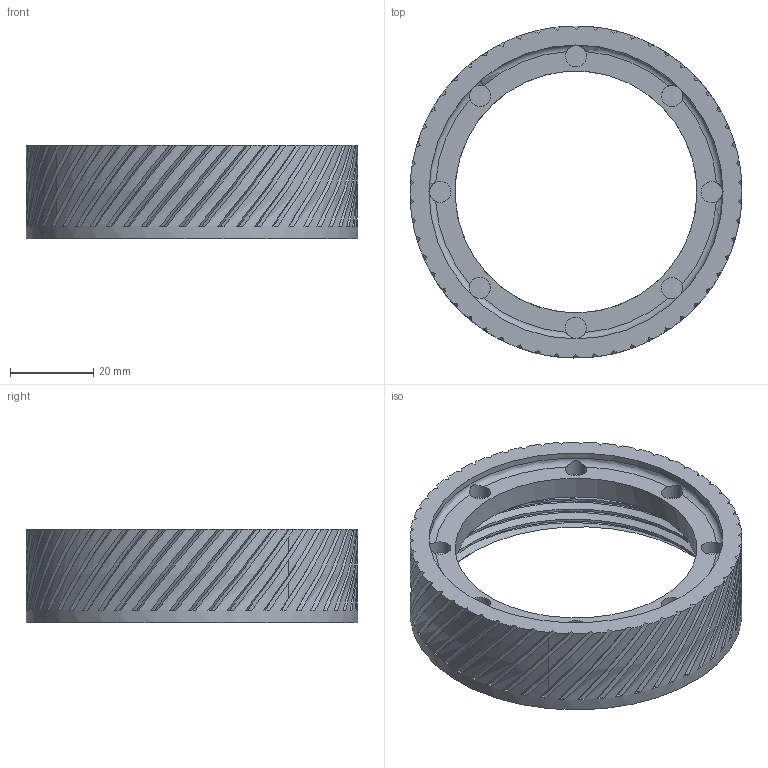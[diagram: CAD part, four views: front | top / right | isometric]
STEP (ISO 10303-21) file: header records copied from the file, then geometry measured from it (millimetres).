
FILE_DESCRIPTION(/* description */ ('STEP AP242','CAx-IF Rec.Pracs.---Representation and Presentation of Product Manufacturing Information (PMI)---4.0---2014-10-13','CAx-IF Rec.Pracs.---3D Tessellated Geometry---0.4---2014-09-14','2;1'),/* implementation_level */ '2;1');
FILE_NAME(/* name */ '646928e1cac4670533c219af',/* time_stamp */ '2023-05-20T20:09:05Z',/* author */ (''),/* organization */ (''),/* preprocessor_version */ 'ST-DEVELOPER v19.4',/* originating_system */ ' ',/* authorisation */ ' ');
FILE_SCHEMA (('AP242_MANAGED_MODEL_BASED_3D_ENGINEERING_MIM_LF { 1 0 10303 442 1 1 4 }'));
Length unit declared in the file: metre
Products named in the file (1): Base 25mm Magnet NoLug
Bounding box: 79.6 x 79.59 x 22.4 mm (x, y, z)
Volume: 29700 mm3; surface area: 17117.3 mm2
Topology: 1 solids, 1 shells, 241 faces, 710 edges, 474 vertices
Faces by surface type: bspline 144, plane 78, cylinder 15, cone 3, torus 1
Full cylindrical faces by diameter (mm): 5.1 x8, 58 x1, 70.5 x1, 79.6 x1
Entity records: 14532 total; most frequent: CARTESIAN_POINT 9835, ORIENTED_EDGE 1350, EDGE_CURVE 675, DIRECTION 517, VERTEX_POINT 455, B_SPLINE_CURVE_WITH_KNOTS 327, EDGE_LOOP 256, FACE_BOUND 256
